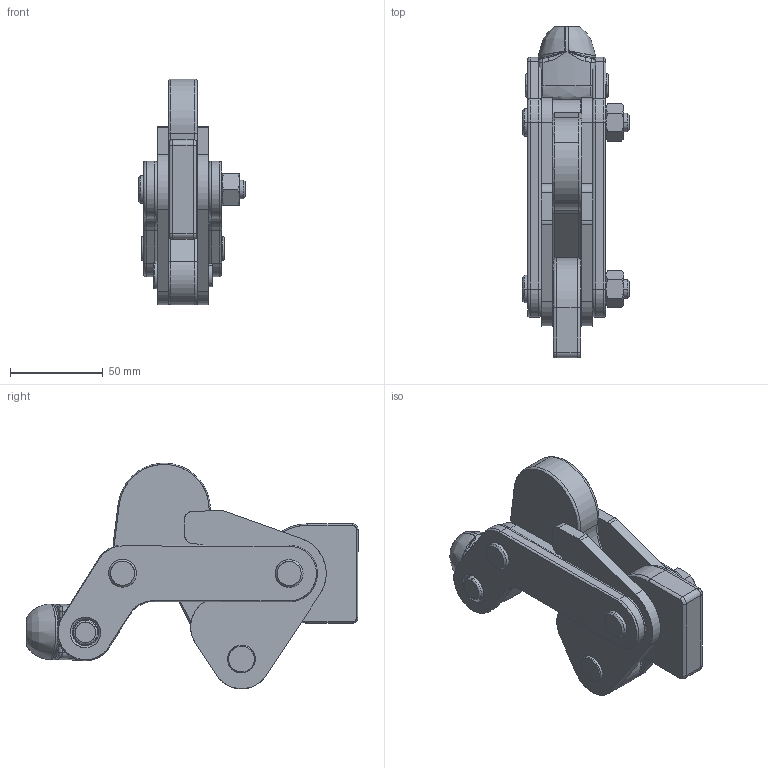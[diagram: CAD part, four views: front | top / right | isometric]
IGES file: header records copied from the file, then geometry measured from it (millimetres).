
Start section: SolidWorks IGES file using analytic representation for surfaces
Global section: file name: D:\GH Files\GH-SW-FILES\GH7\701K,702K\GH-702K.IGS; native system: SolidWorks 2007; preprocessor: SolidWorks 2007; author: Administrator; date: 061026.124636; units: millimetre
Bounding box: 58 x 179.36 x 121.9 mm (x, y, z)
Surface area: 101516.1 mm2 (no closed solid volume)
Topology: 0 solids, 0 shells, 1460 faces, 11742 edges, 11738 vertices
Faces by surface type: bspline 794, revolution 666
